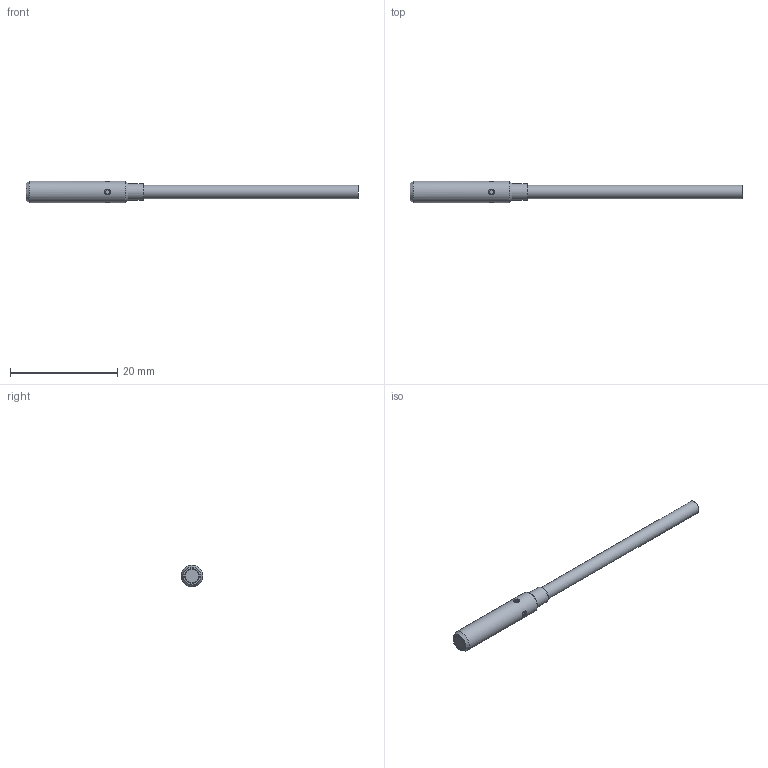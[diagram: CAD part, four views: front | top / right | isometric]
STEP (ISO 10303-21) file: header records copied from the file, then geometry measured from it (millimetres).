
FILE_DESCRIPTION( ( 'Unknown' ), '1' );
FILE_SCHEMA( ( 'AUTOMOTIVE_DESIGN { 1 0 10303 214 1 1 1 1 }' ) );
Length unit declared in the file: millimetre
Products named in the file (4): Assem1
Assembly tree (3 placements, depth 2):
  Assem1
    (unnamed)
    (unnamed)
    (unnamed)
Bounding box: 62 x 4 x 4 mm (x, y, z)
Surface area: 610.5 mm2 (no closed solid volume)
Topology: 0 solids, 24 shells, 24 faces, 72 edges, 55 vertices
Faces by surface type: cylinder 8, plane 8, cone 7, torus 1
Full cylindrical faces by diameter (mm): 0.8 x4, 2.5 x1, 2.75 x1, 3.15 x1, 4 x1
Entity records: 884 total; most frequent: CARTESIAN_POINT 302, DIRECTION 130, AXIS2_PLACEMENT_3D 65, FACE_BOUND 45, EDGE_LOOP 45, ORIENTED_EDGE 45, EDGE_CURVE 45, VERTEX_POINT 45
